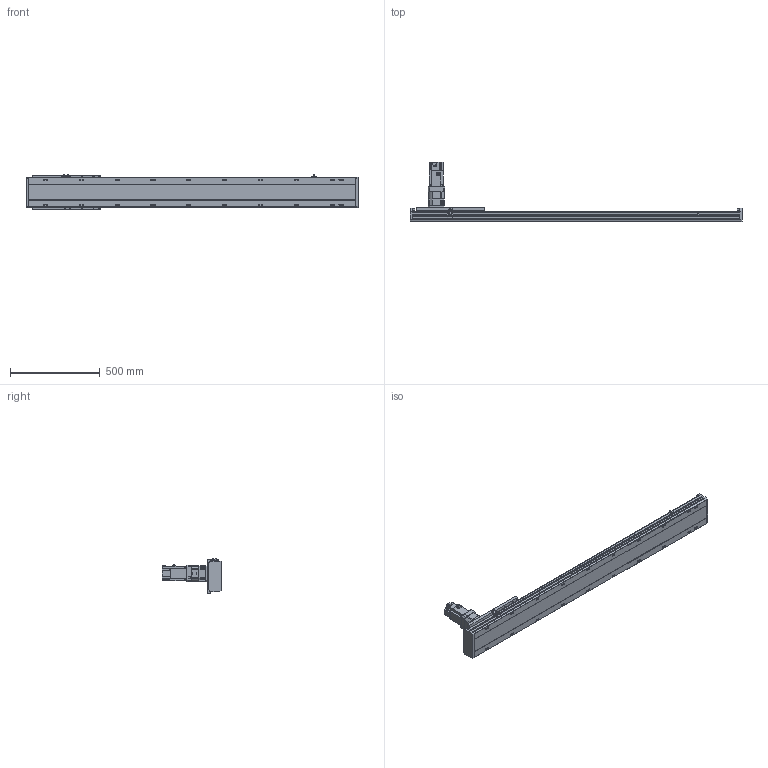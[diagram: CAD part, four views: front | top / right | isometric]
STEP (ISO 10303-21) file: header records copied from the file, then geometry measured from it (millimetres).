
FILE_DESCRIPTION(/* description */ ('STEP AP203'),/* implementation_level */ '2;1');
FILE_NAME(/* name */ 'SHS17A-L13-S1400-BC-T75-C1-N(0)',/* time_stamp */ '2023-03-27T08:57:35+02:00',/* author */ ('License CC BY-ND 4.0'),/* organization */ ('CADENAS'),/* preprocessor_version */ 'ST-DEVELOPER v19.3',/* originating_system */ 'PARTsolutions',/* authorisation */ ' ');
FILE_SCHEMA (('CONFIG_CONTROL_DESIGN'));
Length unit declared in the file: millimetre
Products named in the file (7): SHS17A-L13-S1400-BC-T75-C1-N(0); PSC140-sensor; SHS17A-S1400(0)_body2; T75-p1; SHS17A-S1400_body3; SHS17A-S1400-C1(0)_slider; SHS17A-S1400-C1(0)_body
Assembly tree (13 placements, depth 2):
  SHS17A-L13-S1400-BC-T75-C1-N(0)
    PSC140-sensor  x3
    SHS17A-S1400(0)_body2  x6
    T75-p1
    SHS17A-S1400_body3
    SHS17A-S1400-C1(0)_slider
    SHS17A-S1400-C1(0)_body
Bounding box: 1854 x 333.8 x 193.4 mm (x, y, z)
Volume: 14378982 mm3; surface area: 1709902.1 mm2
Topology: 13 solids, 13 shells, 1976 faces, 5001 edges, 3260 vertices
Faces by surface type: plane 1299, cylinder 600, cone 74, torus 3
Full cylindrical faces by diameter (mm): 2.8 x3, 4.134 x24, 4.5 x2, 4.6 x3, 4.917 x15, 5.5 x48, 6 x7, 6.5 x24, 6.647 x28, 6.8 x9, 8 x3, 8.5 x20, 10 x28, 11 x4, 14 x20, 22 x1, 24 x1, 24.2 x1, 28 x1, 28.2 x1, 28.8 x1, 29.8 x1, 48.542 x1, 68 x1, 70 x1, 78 x1, 80 x2
Entity records: 35864 total; most frequent: CARTESIAN_POINT 6788, DIRECTION 5923, ORIENTED_EDGE 5660, EDGE_CURVE 2830, AXIS2_PLACEMENT_3D 2062, VERTEX_POINT 1987, LINE 1799, VECTOR 1799
